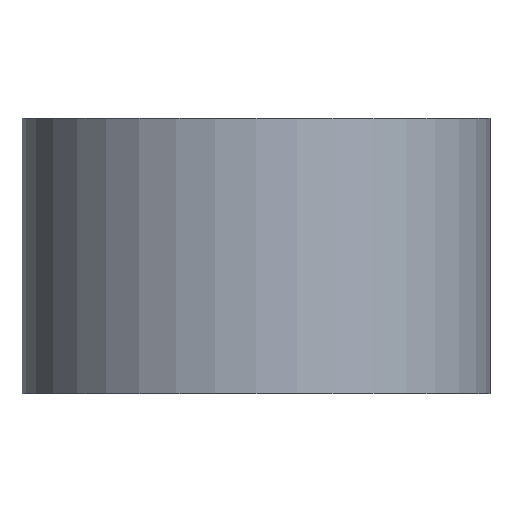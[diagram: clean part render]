
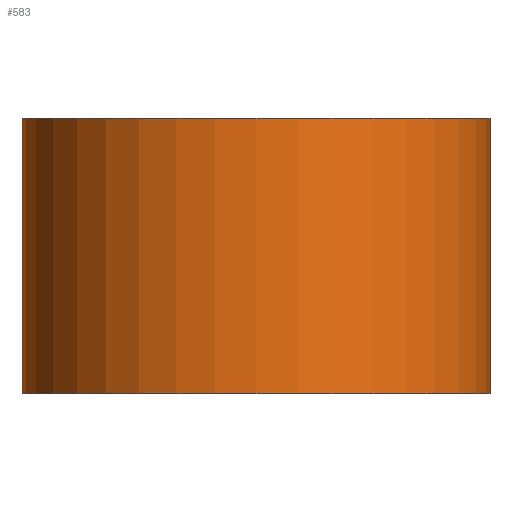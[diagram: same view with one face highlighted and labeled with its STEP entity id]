
A CAD part, front view. The second image highlights one B-rep face of the part: STEP entity #583.
In plain terms, the highlighted cylindrical face has radius 42.5 mm (diameter 85 mm), a partial arc.
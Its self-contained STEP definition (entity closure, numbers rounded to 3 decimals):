
#7=CARTESIAN_POINT('',(0.,0.,0.));
#8=DIRECTION('',(0.,0.,1.));
#9=DIRECTION('',(-1.,0.,0.));
#10=AXIS2_PLACEMENT_3D('',#7,#8,#9);
#38=DIRECTION('',(0.,0.,1.));
#39=VECTOR('',#38,50.);
#40=CARTESIAN_POINT('',(42.5,0.,0.));
#41=LINE('',#40,#39);
#42=DIRECTION('',(0.,0.,1.));
#43=VECTOR('',#42,50.);
#44=CARTESIAN_POINT('',(-42.5,0.,0.));
#45=LINE('',#44,#43);
#51=CARTESIAN_POINT('',(0.,0.,50.));
#52=DIRECTION('',(0.,0.,1.));
#53=DIRECTION('',(-1.,0.,0.));
#54=AXIS2_PLACEMENT_3D('',#51,#52,#53);
#406=CARTESIAN_POINT('',(42.5,0.,0.));
#407=CARTESIAN_POINT('',(-42.5,0.,0.));
#408=VERTEX_POINT('',#406);
#409=VERTEX_POINT('',#407);
#410=CARTESIAN_POINT('',(42.5,0.,50.));
#411=CARTESIAN_POINT('',(-42.5,0.,50.));
#412=VERTEX_POINT('',#410);
#413=VERTEX_POINT('',#411);
#571=CARTESIAN_POINT('',(0.,0.,0.));
#572=DIRECTION('',(0.,0.,1.));
#573=DIRECTION('',(1.,0.,0.));
#574=AXIS2_PLACEMENT_3D('',#571,#572,#573);
#575=CYLINDRICAL_SURFACE('',#574,42.5);
#576=ORIENTED_EDGE('',*,*,#533,.F.);
#577=ORIENTED_EDGE('',*,*,#566,.T.);
#579=ORIENTED_EDGE('',*,*,#578,.T.);
#580=ORIENTED_EDGE('',*,*,#562,.F.);
#581=EDGE_LOOP('',(#576,#577,#579,#580));
#582=FACE_OUTER_BOUND('',#581,.F.);
#583=ADVANCED_FACE('',(#582),#575,.T.);
#11=CIRCLE('',#10,42.5);
#55=CIRCLE('',#54,42.5);
#533=EDGE_CURVE('',#409,#408,#11,.T.);
#562=EDGE_CURVE('',#408,#412,#41,.T.);
#566=EDGE_CURVE('',#409,#413,#45,.T.);
#578=EDGE_CURVE('',#413,#412,#55,.T.);
